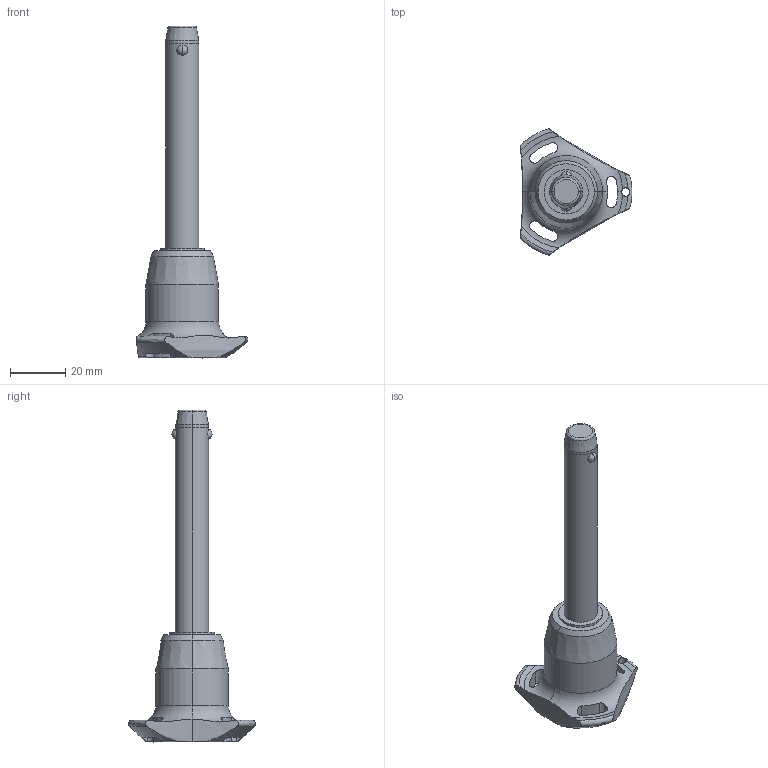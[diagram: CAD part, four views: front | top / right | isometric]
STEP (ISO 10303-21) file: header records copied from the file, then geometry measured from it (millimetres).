
FILE_DESCRIPTION (( 'STEP AP203' ), '1' );
FILE_NAME ('QR1716.M12-070-T.step', '2025-11-13T10:37:03', ( '' ), ( '' ), 'SwSTEP 2.0', 'SolidWorks 2019', '' );
FILE_SCHEMA (( 'CONFIG_CONTROL_DESIGN' ));
Length unit declared in the file: millimetre
Products named in the file (1): QR1716.M12-070-T
Bounding box: 40.5 x 45.88 x 120.3 mm (x, y, z)
Volume: 31051.6 mm3; surface area: 8976.8 mm2
Topology: 1 solids, 1 shells, 68 faces, 184 edges, 117 vertices
Faces by surface type: cylinder 32, cone 14, torus 11, sphere 6, plane 5
Entity records: 2942 total; most frequent: CARTESIAN_POINT 1186, ORIENTED_EDGE 368, DIRECTION 345, EDGE_CURVE 184, AXIS2_PLACEMENT_3D 154, VERTEX_POINT 117, CIRCLE 85, EDGE_LOOP 75
